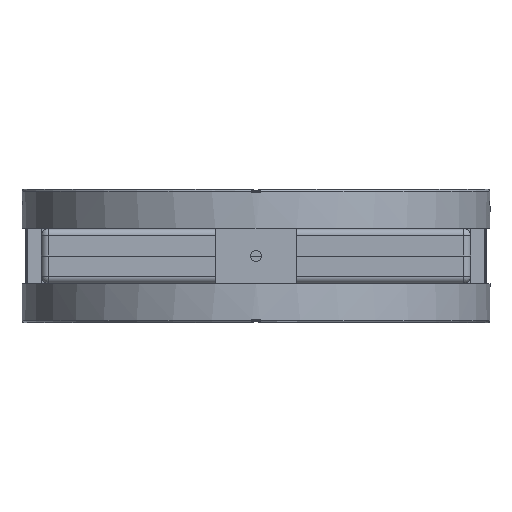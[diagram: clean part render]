
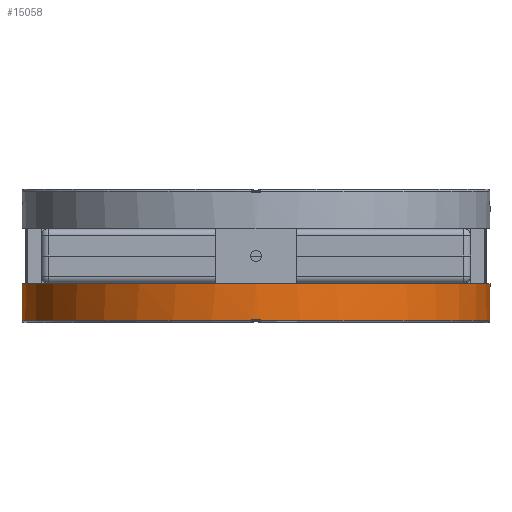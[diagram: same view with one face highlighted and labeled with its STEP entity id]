
A CAD part, front view. The second image highlights one B-rep face of the part: STEP entity #15058.
In plain terms, the highlighted cylindrical face has radius 175 mm (diameter 350 mm), a full revolution.
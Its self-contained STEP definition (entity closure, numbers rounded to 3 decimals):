
#6930=LINE('',#42453,#8247);
#6931=LINE('',#42457,#8248);
#6932=LINE('',#42458,#8249);
#6933=LINE('',#42462,#8250);
#8247=VECTOR('',#34903,1.);
#8248=VECTOR('',#34906,1.);
#8249=VECTOR('',#34907,1.);
#8250=VECTOR('',#34910,1.);
#14410=CYLINDRICAL_SURFACE('',#31591,175.);
#15058=ADVANCED_FACE('',(#16403,#16404),#14410,.T.);
#16403=FACE_BOUND('',#17822,.T.);
#16404=FACE_BOUND('',#17823,.T.);
#17822=EDGE_LOOP('',(#20990));
#17823=EDGE_LOOP('',(#20991,#20992,#20993,#20994,#20995,#20996,#20997,#20998));
#20990=ORIENTED_EDGE('',*,*,#28054,.F.);
#20991=ORIENTED_EDGE('',*,*,#28055,.F.);
#20992=ORIENTED_EDGE('',*,*,#28056,.T.);
#20993=ORIENTED_EDGE('',*,*,#28057,.T.);
#20994=ORIENTED_EDGE('',*,*,#28058,.T.);
#20995=ORIENTED_EDGE('',*,*,#28045,.F.);
#20996=ORIENTED_EDGE('',*,*,#28059,.T.);
#20997=ORIENTED_EDGE('',*,*,#28060,.T.);
#20998=ORIENTED_EDGE('',*,*,#28061,.T.);
#25590=VERTEX_POINT('',#42405);
#25591=VERTEX_POINT('',#42406);
#25599=VERTEX_POINT('',#42449);
#25600=VERTEX_POINT('',#42451);
#25601=VERTEX_POINT('',#42452);
#25602=VERTEX_POINT('',#42454);
#25603=VERTEX_POINT('',#42456);
#25604=VERTEX_POINT('',#42459);
#25605=VERTEX_POINT('',#42461);
#28045=EDGE_CURVE('',#25590,#25591,#30310,.T.);
#28054=EDGE_CURVE('',#25599,#25599,#30312,.T.);
#28055=EDGE_CURVE('',#25600,#25601,#30313,.T.);
#28056=EDGE_CURVE('',#25600,#25602,#6930,.T.);
#28057=EDGE_CURVE('',#25602,#25603,#30314,.T.);
#28058=EDGE_CURVE('',#25603,#25591,#6931,.T.);
#28059=EDGE_CURVE('',#25590,#25604,#6932,.T.);
#28060=EDGE_CURVE('',#25604,#25605,#30315,.T.);
#28061=EDGE_CURVE('',#25605,#25601,#6933,.T.);
#30310=CIRCLE('',#31584,175.);
#30312=CIRCLE('',#31587,175.);
#30313=CIRCLE('',#31588,175.);
#30314=CIRCLE('',#31589,175.);
#30315=CIRCLE('',#31590,175.);
#31584=AXIS2_PLACEMENT_3D('',#42404,#34891,#34892);
#31587=AXIS2_PLACEMENT_3D('',#42448,#34899,#34900);
#31588=AXIS2_PLACEMENT_3D('',#42450,#34901,#34902);
#31589=AXIS2_PLACEMENT_3D('',#42455,#34904,#34905);
#31590=AXIS2_PLACEMENT_3D('',#42460,#34908,#34909);
#31591=AXIS2_PLACEMENT_3D('',#42463,#34911,#34912);
#34891=DIRECTION('',(-1.,0.,0.));
#34892=DIRECTION('',(0.,-1.,0.));
#34899=DIRECTION('',(1.,0.,0.));
#34900=DIRECTION('',(0.,-1.,0.));
#34901=DIRECTION('',(-1.,0.,0.));
#34902=DIRECTION('',(0.,-1.,0.));
#34903=DIRECTION('',(-1.,0.,0.));
#34904=DIRECTION('',(1.,0.,0.));
#34905=DIRECTION('',(0.,1.,0.));
#34906=DIRECTION('',(1.,0.,0.));
#34907=DIRECTION('',(-1.,0.,0.));
#34908=DIRECTION('',(1.,0.,0.));
#34909=DIRECTION('',(0.,1.,0.));
#34910=DIRECTION('',(1.,0.,0.));
#34911=DIRECTION('',(1.,0.,0.));
#34912=DIRECTION('',(0.,-1.,0.));
#42404=CARTESIAN_POINT('',(-47.375,0.,526.));
#42405=CARTESIAN_POINT('',(-47.375,3.,351.026));
#42406=CARTESIAN_POINT('',(-47.375,-3.,351.026));
#42448=CARTESIAN_POINT('',(-20.575,0.,526.));
#42449=CARTESIAN_POINT('',(-20.575,-175.,526.));
#42450=CARTESIAN_POINT('',(-47.375,0.,526.));
#42451=CARTESIAN_POINT('',(-47.375,-3.,700.974));
#42452=CARTESIAN_POINT('',(-47.375,3.,700.974));
#42453=CARTESIAN_POINT('',(-20.575,-3.,700.974));
#42454=CARTESIAN_POINT('',(-48.375,-3.,700.974));
#42455=CARTESIAN_POINT('',(-48.375,0.,526.));
#42456=CARTESIAN_POINT('',(-48.375,-3.,351.026));
#42457=CARTESIAN_POINT('',(-20.575,-3.,351.026));
#42458=CARTESIAN_POINT('',(-20.575,3.,351.026));
#42459=CARTESIAN_POINT('',(-48.375,3.,351.026));
#42460=CARTESIAN_POINT('',(-48.375,0.,526.));
#42461=CARTESIAN_POINT('',(-48.375,3.,700.974));
#42462=CARTESIAN_POINT('',(-20.575,3.,700.974));
#42463=CARTESIAN_POINT('',(-20.575,0.,526.));
